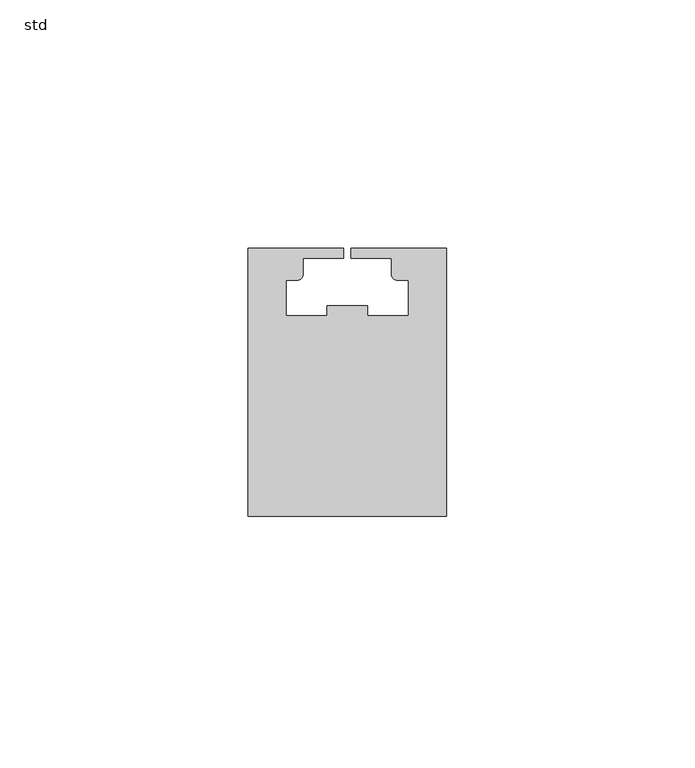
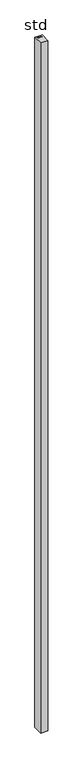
"""IFC4 building model written with IfcOpenShell, lengths in millimetres: column geometry, NLRS_21_COL_drager ST.054_Storax : std."""

from ifc_helpers import new_model, si_unit, point, frame_2d, origin, origin_with_axes, place, context, project, spatial, polyline, circle_curve, trimmed, segment, composite_curve, outline, extrude, source, transform, mapped, element, save


def std_899e7a4b(model_context):
    return source(origin(), model_context, "Body", "SweptSolid", [
        extrude(outline(composite_curve([segment(polyline([(20.0, -1.0), (20.0, -55.0), (-20.0, -55.0), (-20.0, -1.0), (-0.7528633, -1.0), (-0.7528633, -3.0), (-8.9220615, -3.0), (-8.9220615, -6.2788187)]), True, "CONTINUOUS"), segment(trimmed(circle_curve(frame_2d((-10.1231703, -6.2788187)), 1.2011087), [point((-8.9220615, -6.2788187))], [point((-10.1231703, -7.4799274))], False, "CARTESIAN"), True, "CONTINUOUS"), segment(polyline([(-10.1231703, -7.4799274), (-12.3724438, -7.4799274), (-12.3724438, -14.5683484), (-4.0479621, -14.5683484), (-4.0479621, -12.5683484), (4.0479621, -12.5683484), (4.0479621, -14.5683484), (12.3724438, -14.5683484), (12.3724438, -7.4799274), (10.1231703, -7.4799274)]), True, "CONTINUOUS"), segment(trimmed(circle_curve(frame_2d((10.1231703, -6.2788187)), 1.2011087), [point((10.1231703, -7.4799274))], [point((8.9220615, -6.2788187))], False, "CARTESIAN"), True, "CONTINUOUS"), segment(polyline([(8.9220615, -6.2788187), (8.9220615, -3.0), (0.7528633, -3.0), (0.7528633, -1.0), (20.0, -1.0)]), True, "CONTINUOUS")], self_intersect=False)), origin_with_axes(), (0.0, 0.0, 1.0), 4000.0),
    ])


if __name__ == "__main__":
    model = new_model("IFC4")
    model_context = context("Model", 3, world=origin())
    ifc_project = project(units=[si_unit("LENGTHUNIT", "METRE", prefix="MILLI")], contexts=[model_context])
    site = spatial("IfcSite", under=ifc_project)
    building = spatial("IfcBuilding", under=site)
    placement = place(None, origin())
    std_shape = std_899e7a4b(model_context)
    element("IfcColumn", 1, ObjectType="NLRS_21_COL_drager ST.054_Storax : std", at=placement, inside=building, context=model_context, shape_type="MappedRepresentation", body=[
        mapped(std_shape, transform((0.0, 0.0, 0.0), x_axis=(1.0, 0.0, 0.0), y_axis=(0.0, 1.0, 0.0), z_axis=(0.0, 0.0, 1.0))),
    ])
    save(model, "model.ifc")
